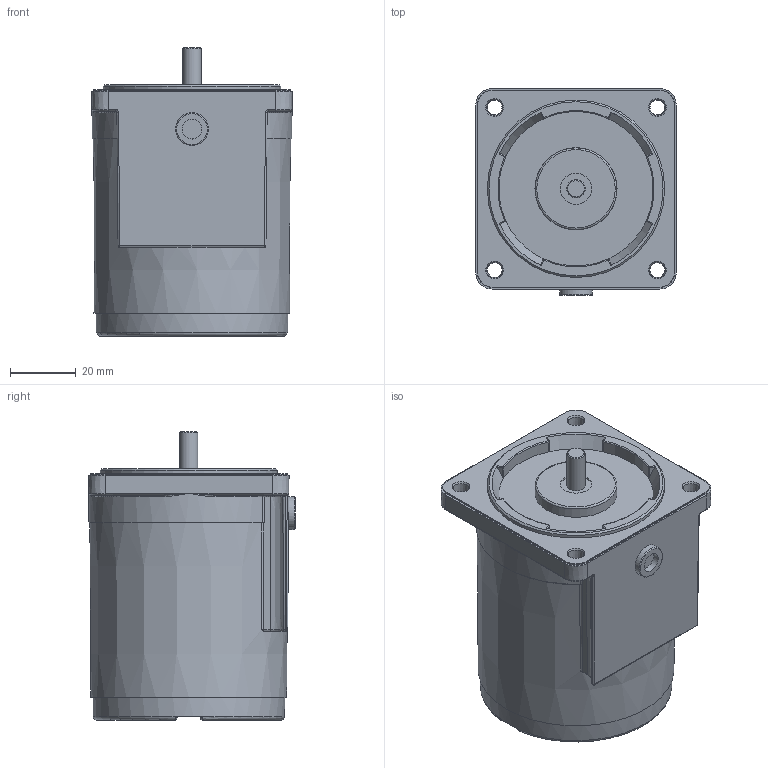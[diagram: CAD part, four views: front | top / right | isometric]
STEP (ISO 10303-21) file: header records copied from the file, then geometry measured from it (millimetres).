
FILE_DESCRIPTION (( 'STEP AP214' ), '1' );
FILE_NAME ('6TDG¤±-3G.STEP', '2025-01-13T08:09:49', ( '' ), ( '' ), 'SwSTEP 2.0', 'SolidWorks 2024', '' );
FILE_SCHEMA (( 'AUTOMOTIVE_DESIGN' ));
Length unit declared in the file: millimetre
Products named in the file (1): 6TDGㅁ-3G
Bounding box: 61 x 62.94 x 87.7 mm (x, y, z)
Volume: 216646.2 mm3; surface area: 24244.9 mm2
Topology: 1 solids, 1 shells, 335 faces, 735 edges, 413 vertices
Faces by surface type: bspline 74, plane 70, cylinder 68, torus 56, cone 45, sphere 22
Full cylindrical faces by diameter (mm): 4.5 x4, 5.57 x1, 6 x1, 9.5 x1, 10 x1, 54 x1
Entity records: 9890 total; most frequent: CARTESIAN_POINT 3352, DIRECTION 1341, ORIENTED_EDGE 1290, EDGE_CURVE 645, AXIS2_PLACEMENT_3D 597, EDGE_LOOP 429, VERTEX_POINT 398, FACE_OUTER_BOUND 364
